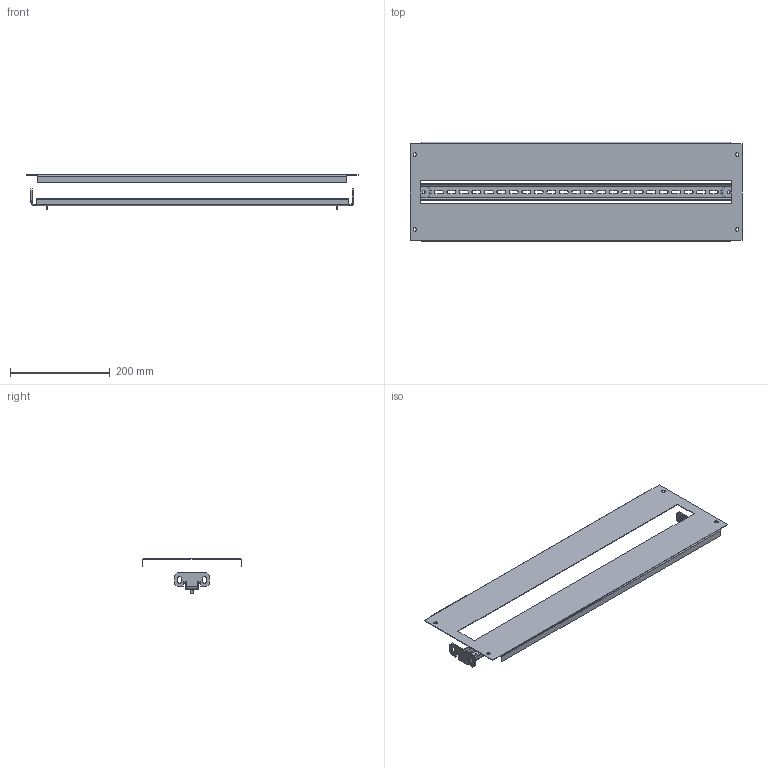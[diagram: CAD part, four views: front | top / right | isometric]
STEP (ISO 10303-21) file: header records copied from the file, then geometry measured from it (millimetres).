
FILE_DESCRIPTION (( 'STEP AP214' ), '1' );
FILE_NAME ('FBM 20.80.STEP', '2022-12-21T15:30:26', ( '' ), ( '' ), 'SwSTEP 2.0', 'SolidWorks 2018', '' );
FILE_SCHEMA (( 'AUTOMOTIVE_DESIGN' ));
Length unit declared in the file: millimetre
Products named in the file (4): DR 15.625; B 6 DR; FBM 20.80; MB 20.70 P
Assembly tree (4 placements, depth 2):
  FBM 20.80
    MB 20.70 P
    B 6 DR  x2
    DR 15.625
Bounding box: 665 x 199 x 68.5 mm (x, y, z)
Volume: 196370.7 mm3; surface area: 326083.8 mm2
Topology: 4 solids, 4 shells, 254 faces, 714 edges, 468 vertices
Faces by surface type: plane 150, cylinder 100, bspline 4
Full cylindrical faces by diameter (mm): 5.2 x2, 7 x4
Entity records: 7004 total; most frequent: CARTESIAN_POINT 1324, DIRECTION 1144, ORIENTED_EDGE 1140, EDGE_CURVE 570, VECTOR 404, LINE 404, VERTEX_POINT 378, AXIS2_PLACEMENT_3D 370
